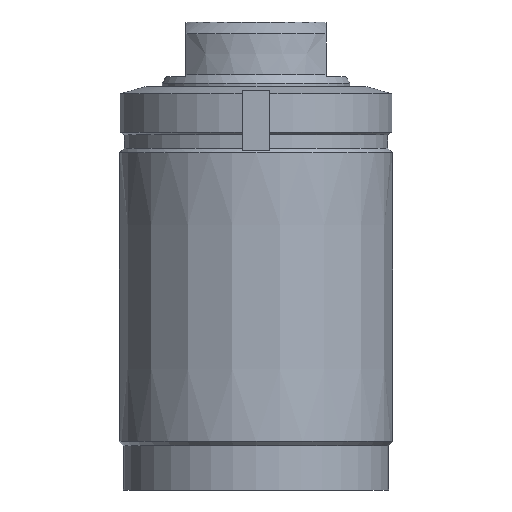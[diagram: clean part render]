
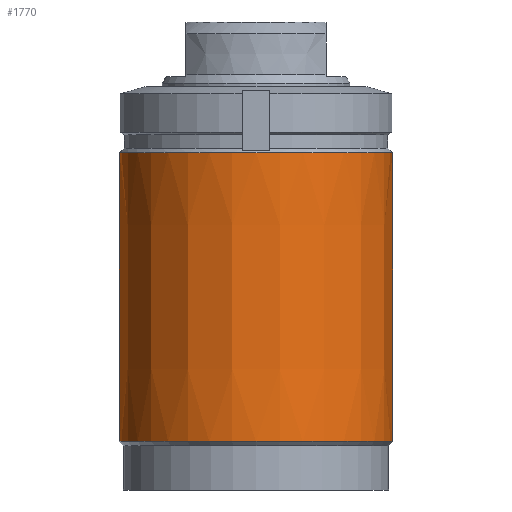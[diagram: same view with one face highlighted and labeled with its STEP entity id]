
A CAD part, front view. The second image highlights one B-rep face of the part: STEP entity #1770.
In plain terms, the highlighted conical face has half-angle 0 degrees and reference radius 40 mm.
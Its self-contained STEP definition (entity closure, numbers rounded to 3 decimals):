
#1707=CARTESIAN_POINT('',(-40.,0.0,-103.8));
#1708=VERTEX_POINT('',#1707);
#1716=CARTESIAN_POINT('',(40.,0.0,-103.8));
#1717=VERTEX_POINT('',#1716);
#1724=CARTESIAN_POINT('',(-0.0,0.0,-103.8));
#1725=DIRECTION('',(0.0,0.0,1.0));
#1726=DIRECTION('',(1.0,0.0,0.0));
#1727=AXIS2_PLACEMENT_3D('',#1724,#1725,#1726);
#1728=CIRCLE('',#1727,40.);
#1729=EDGE_CURVE('no 2866',#1708,#1717,#1728,.T.);
#1739=CARTESIAN_POINT('',(40.,0.0,-19.25));
#1740=VERTEX_POINT('',#1739);
#1741=CARTESIAN_POINT('',(40.,0.0,-19.25));
#1742=DIRECTION('',(0.,0.0,-1.0));
#1743=VECTOR('',#1742,1.0);
#1744=LINE('',#1741,#1743);
#1745=EDGE_CURVE('no 2876',#1740,#1717,#1744,.T.);
#1746=ORIENTED_EDGE('',*,*,#1745,.F.);
#1747=CARTESIAN_POINT('',(-40.,0.0,-19.25));
#1748=VERTEX_POINT('',#1747);
#1749=CARTESIAN_POINT('',(-0.0,0.0,-19.25));
#1750=DIRECTION('',(0.0,0.0,1.0));
#1751=DIRECTION('',(1.0,0.0,0.0));
#1752=AXIS2_PLACEMENT_3D('',#1749,#1750,#1751);
#1753=CIRCLE('',#1752,40.);
#1754=EDGE_CURVE('no 2882',#1748,#1740,#1753,.T.);
#1755=ORIENTED_EDGE('',*,*,#1754,.F.);
#1756=CARTESIAN_POINT('',(-40.,0.0,-19.25));
#1757=DIRECTION('',(0.,0.0,-1.0));
#1758=VECTOR('',#1757,1.0);
#1759=LINE('',#1756,#1758);
#1760=EDGE_CURVE('no 2886',#1748,#1708,#1759,.T.);
#1761=ORIENTED_EDGE('',*,*,#1760,.T.);
#1762=ORIENTED_EDGE('',*,*,#1729,.T.);
#1763=EDGE_LOOP('',(#1746,#1755,#1761,#1762));
#1764=FACE_OUTER_BOUND('',#1763,.T.);
#1765=CARTESIAN_POINT('',(-0.0,0.0,-103.8));
#1766=DIRECTION('',(0.0,0.0,-1.0));
#1767=DIRECTION('',(-0.0,1.0,0.0));
#1768=AXIS2_PLACEMENT_3D('',#1765,#1766,#1767);
#1769=CONICAL_SURFACE('',#1768,40.,0.);
#1770=ADVANCED_FACE('no 2869',(#1764),#1769,.T.);
